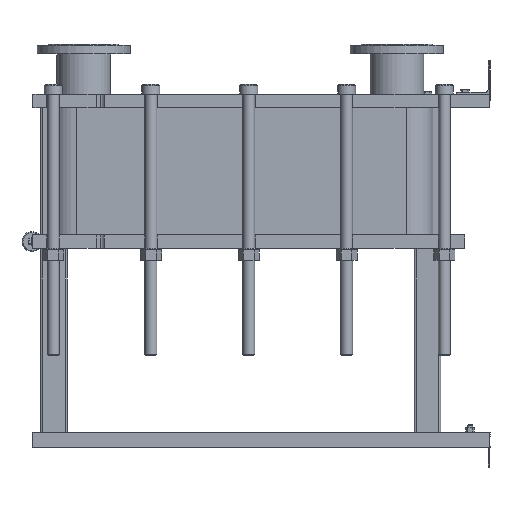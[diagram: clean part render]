
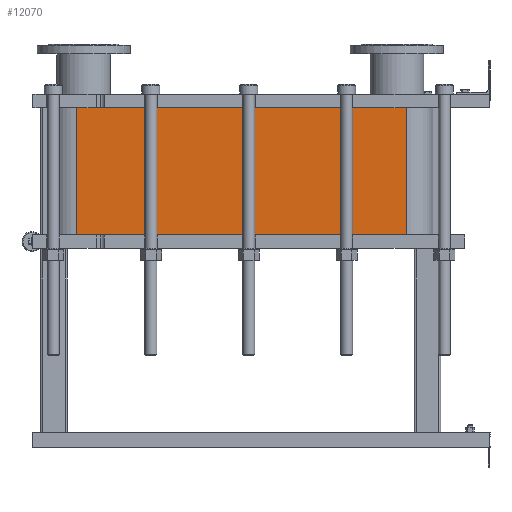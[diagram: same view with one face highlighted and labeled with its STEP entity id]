
A CAD part, left-side view. The second image highlights one B-rep face of the part: STEP entity #12070.
In plain terms, the highlighted planar face has unit normal (-1, 0, 0).
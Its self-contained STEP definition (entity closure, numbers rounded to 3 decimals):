
#1064=LINE('',#21140,#2164);
#1065=LINE('',#21144,#2165);
#1066=LINE('',#21146,#2166);
#1067=LINE('',#21147,#2167);
#2164=VECTOR('',#15790,10.);
#2165=VECTOR('',#15795,10.);
#2166=VECTOR('',#15796,10.);
#2167=VECTOR('',#15797,10.);
#3304=FACE_OUTER_BOUND('',#4091,.T.);
#4091=EDGE_LOOP('',(#9793,#9794,#9795,#9796));
#5677=VERTEX_POINT('',#21137);
#5678=VERTEX_POINT('',#21139);
#5679=VERTEX_POINT('',#21143);
#5680=VERTEX_POINT('',#21145);
#7118=EDGE_CURVE('',#5678,#5677,#1064,.T.);
#7120=EDGE_CURVE('',#5677,#5679,#1065,.T.);
#7121=EDGE_CURVE('',#5680,#5679,#1066,.T.);
#7122=EDGE_CURVE('',#5680,#5678,#1067,.T.);
#9793=ORIENTED_EDGE('',*,*,#7120,.T.);
#9794=ORIENTED_EDGE('',*,*,#7121,.F.);
#9795=ORIENTED_EDGE('',*,*,#7122,.T.);
#9796=ORIENTED_EDGE('',*,*,#7118,.T.);
#11441=PLANE('',#13191);
#12070=ADVANCED_FACE('',(#3304),#11441,.T.);
#13191=AXIS2_PLACEMENT_3D('',#21142,#15793,#15794);
#15790=DIRECTION('',(0.,0.,-1.));
#15793=DIRECTION('center_axis',(-1.,0.,0.));
#15794=DIRECTION('ref_axis',(0.,1.,0.));
#15795=DIRECTION('',(0.,-1.,0.));
#15796=DIRECTION('',(0.,0.,-1.));
#15797=DIRECTION('',(0.,1.,0.));
#21137=CARTESIAN_POINT('',(-248.152,1243.818,-382.95));
#21139=CARTESIAN_POINT('',(-248.152,1243.818,0.));
#21140=CARTESIAN_POINT('',(-248.152,1243.818,0.));
#21142=CARTESIAN_POINT('Origin',(-248.152,251.818,0.));
#21143=CARTESIAN_POINT('',(-248.152,251.818,-382.95));
#21144=CARTESIAN_POINT('',(-248.152,499.818,-382.95));
#21145=CARTESIAN_POINT('',(-248.152,251.818,0.));
#21146=CARTESIAN_POINT('',(-248.152,251.818,0.));
#21147=CARTESIAN_POINT('',(-248.152,251.818,0.));
